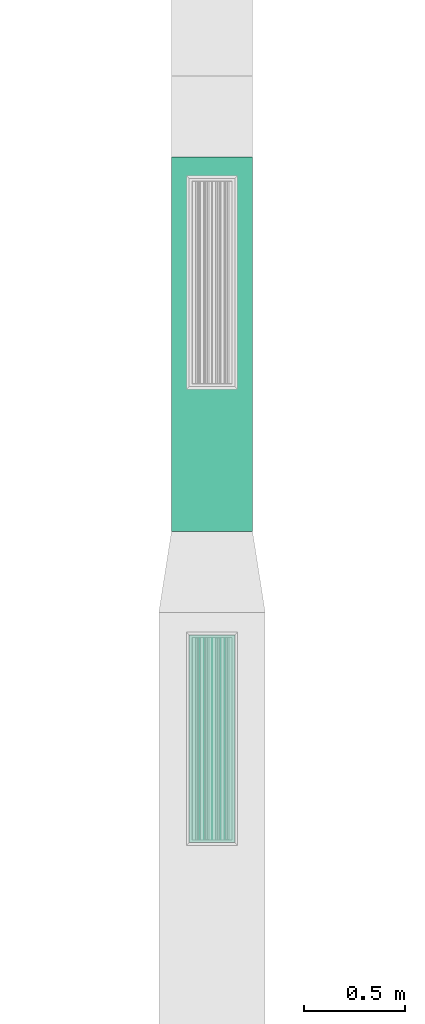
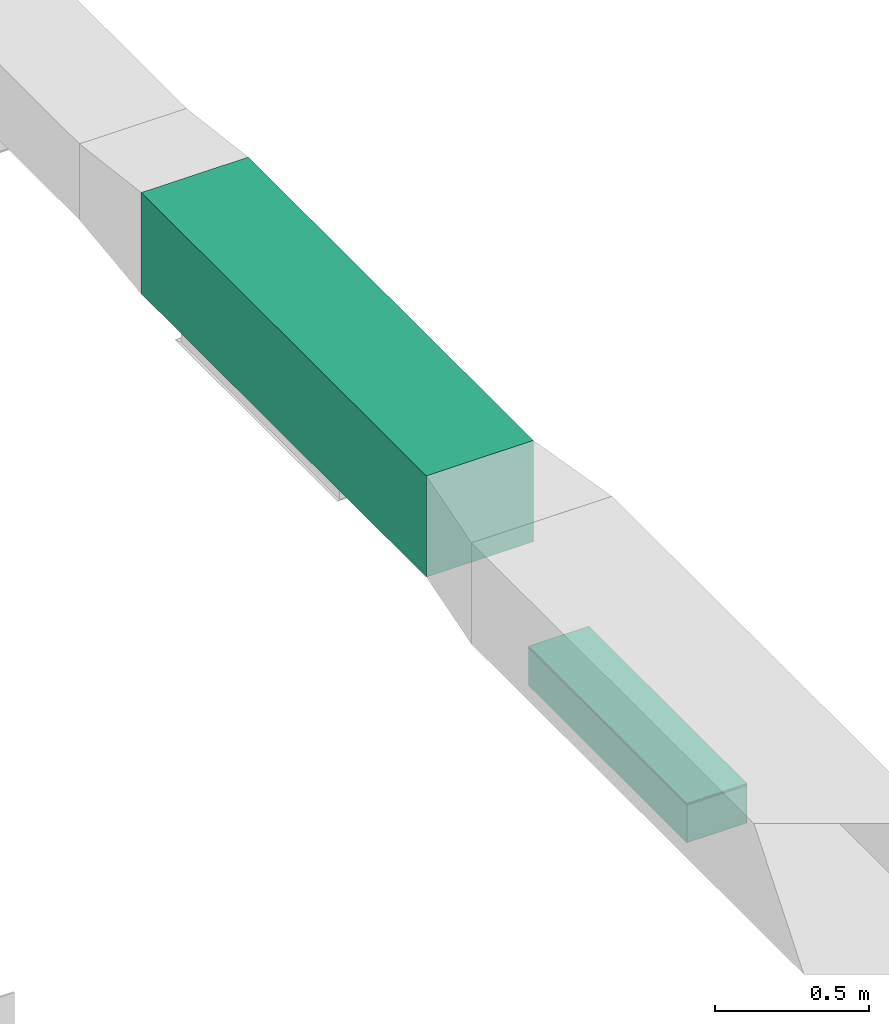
# One storey, part 13 of 60: 2 flow segments, 1 flow fitting.
"""IFC2X3 building model written with IfcOpenShell, lengths in millimetres."""

from ifc_helpers import new_model, entity, si_unit, converted_unit, derived_unit, direction, frame, frame_2d, origin, place, context, subcontext, project, spatial, polyline, rectangle, outline, extrude, source, transform, mapped, material, type_object, type_shapes, element, save


model = new_model("IFC2X3")

# Units and contexts
model_context = context("Model", 3, precision=0.01, world=origin(), true_north=direction((6.123233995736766e-17, 1.0)))
body_context = subcontext(model_context, "Body", "Model", "MODEL_VIEW")
ifc_project = project(units=[si_unit("LENGTHUNIT", "METRE", prefix="MILLI"), converted_unit("PLANEANGLEUNIT", "DEGREE", entity("IfcPlaneAngleMeasure", 0.017453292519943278), si_unit("PLANEANGLEUNIT", "RADIAN"), dimensions=[0, 0, 0, 0, 0, 0, 0]), si_unit("AREAUNIT", "SQUARE_METRE"), derived_unit("THERMALTRANSMITTANCEUNIT", [(si_unit("MASSUNIT", "GRAM", prefix="KILO"), 1), (si_unit("THERMODYNAMICTEMPERATUREUNIT", "KELVIN"), -1), (si_unit("TIMEUNIT", "SECOND"), -3)])], contexts=[model_context])

# Site, building, storey
site_placement = place(None, origin())
site = spatial("IfcSite", under=ifc_project, at=site_placement, Name="Default", CompositionType="ELEMENT")
building_placement = place(site_placement, origin())
building = spatial("IfcBuilding", under=site, at=building_placement, Name="Praça Pedro II, 1301 - Centro (Sul), Teresina - PI, 64001-100", CompositionType="ELEMENT")
storey_placement = place(building_placement, frame((0.0, 0.0, 6040.0)))
storey = spatial("IfcBuildingStorey", under=building, at=storey_placement, Name="2PAV", CompositionType="ELEMENT", Elevation=6040.0)

# Flow segments
duct_segment_type = type_object("IfcDuctSegmentType", Name="Duto retangular:Raios cotovelos / torneiras", PredefinedType="NOTDEFINED")
flow_segment_1_placement = place(storey_placement, origin())
element("IfcFlowSegment", 1, at=flow_segment_1_placement, inside=storey, type_object=duct_segment_type, Name="Duto retangular:Raios cotovelos / torneiras", ObjectType="Duto retangular:Raios cotovelos / torneiras", context=body_context, shape_type="SweptSolid", body=[
    extrude(rectangle(XDim=1845.9153920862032, YDim=400.0, at=frame_2d((8.640199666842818e-12, 6.494360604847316e-12), x_axis=(1.0, 0.0))), frame((35678.621071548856, -57125.31780393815, 3250.0), z_axis=(0.0, 0.0, 1.0), x_axis=(0.0, -1.0, 0.0)), (0.0, 0.0, 1.0), 400.0),
])
flow_segment_2_placement = place(storey_placement, origin())
element("IfcFlowSegment", 2, at=flow_segment_2_placement, inside=storey, type_object=duct_segment_type, Name="Duto retangular:Raios cotovelos / torneiras", ObjectType="Duto retangular:Raios cotovelos / torneiras", context=body_context, shape_type="SweptSolid", body=[
    extrude(rectangle(XDim=225.00000000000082, YDim=1024.9999999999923, at=frame_2d((0.0, 8.640199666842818e-12), x_axis=(1.0, 0.0))), frame((35678.62107154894, -59070.52253334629, 3100.0)), (0.0, 0.0, 1.0), 148.99999999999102),
])

# Flow fitting
ifc_material = material(Name="<Unnamed>")
duct_fitting_type = type_object("IfcDuctFittingType", Name="M_Rectangular Tap - Beveled:Standard", PredefinedType="NOTDEFINED", material=ifc_material)
shared_shape = source(origin(), body_context, "Body", "SweptSolid", [
    extrude(outline(polyline([(-3.0383999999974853, -615.4000000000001), (4.057600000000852, -615.4000000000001), (4.057600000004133, 410.6000000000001), (-2.0383999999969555, 410.6000000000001), (-3.0383999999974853, 409.59999999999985), (-3.0383999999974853, -615.4000000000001)])), frame((-2.038399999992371, -102.90000000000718, -112.49999999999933), z_axis=(0.0, 0.0, 1.0), x_axis=(-1.0, 0.0, 0.0)), (0.0, 0.0, 1.0), 224.99999999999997),
])
type_shapes(duct_fitting_type, [shared_shape])
flow_fitting_placement = place(storey_placement, frame((35678.62107154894, -59070.522533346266, 3250.0), z_axis=(1.0, 0.0, 0.0), x_axis=(0.0, 0.0, -1.0)))
element("IfcFlowFitting", 3, at=flow_fitting_placement, inside=storey, type_object=duct_fitting_type, material=ifc_material, Name="M_Rectangular Tap - Beveled:Standard", ObjectType="M_Rectangular Tap - Beveled:Standard", context=body_context, shape_type="MappedRepresentation", body=[
    mapped(shared_shape, transform((0.0, 0.0, 0.0), scale=1.0)),
])

save(model, "model.ifc")
